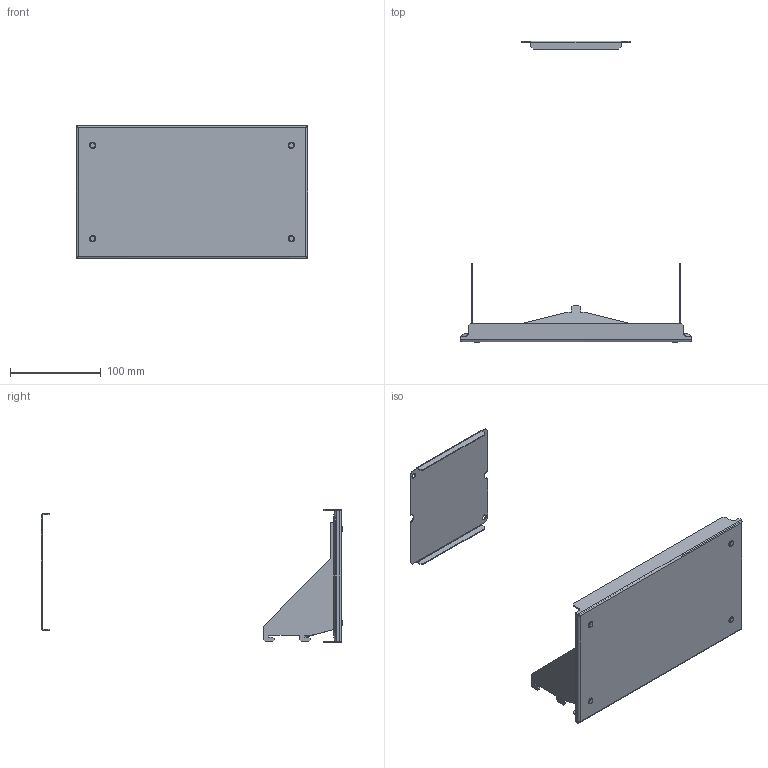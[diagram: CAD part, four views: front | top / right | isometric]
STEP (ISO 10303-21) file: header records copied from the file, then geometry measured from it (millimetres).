
FILE_DESCRIPTION(('CAx-IF Rec.Pracs.---Model Styling and Organization---1.2---2011-12-15','CAx-IF Rec.Pracs.---Geometric and Assembly Validation Properties---4.1---2014-06-16','CAx-IF Rec.Pracs.---PMI Polyline Presentation---2.0---2013-05-24'),'2;1');
FILE_NAME('R5M2W3M2BS.stp','2021-05-05T12:15:12+03:00',(''),(''),'STEP Interface 4.4 by CT CoreTechnologie','3D_Evolution4.4 by CT CoreTechnologie','');
FILE_SCHEMA(('AUTOMOTIVE_DESIGN { 1 0 10303 214 1 1 1 1 }'));
Length unit declared in the file: millimetre
Products named in the file (9): R5M2W...M...BS; RB.1256.00.00.0_-00; RB.1237.00.00.0_-04; 5-GOST 11371-78 (DIN 125) PA 6.6_5-GOST 11371-78 (DIN 125) PA 6.6; RB.1235.00.00.0 ÑÁ_-04; AC00C061_AC00C061; RB.1235.00.01.0_-04; PF 7x14 RAMmcc 2.0_1x2; Ì6õ12-A5100231_straight
Assembly tree (11 placements, depth 3):
  R5M2W...M...BS
    RB.1256.00.00.0_-00
    RB.1237.00.00.0_-04
    5-GOST 11371-78 (DIN 125) PA 6.6_5-GOST 11371-78 (DIN 125) PA 6.6  x4
    RB.1235.00.00.0 ÑÁ_-04
      AC00C061_AC00C061
      RB.1235.00.01.0_-04
      PF 7x14 RAMmcc 2.0_1x2
      Ì6õ12-A5100231_straight
Bounding box: 255.5 x 332 x 147 mm (x, y, z)
Surface area: 199915.3 mm2 (no closed solid volume)
Topology: 0 solids, 14 shells, 253 faces, 638 edges, 409 vertices
Faces by surface type: plane 172, cylinder 69, bspline 12
Entity records: 8176 total; most frequent: CARTESIAN_POINT 1828, ORIENTED_EDGE 1232, DIRECTION 1200, EDGE_CURVE 616, VECTOR 470, LINE 470, VERTEX_POINT 397, AXIS2_PLACEMENT_3D 365
